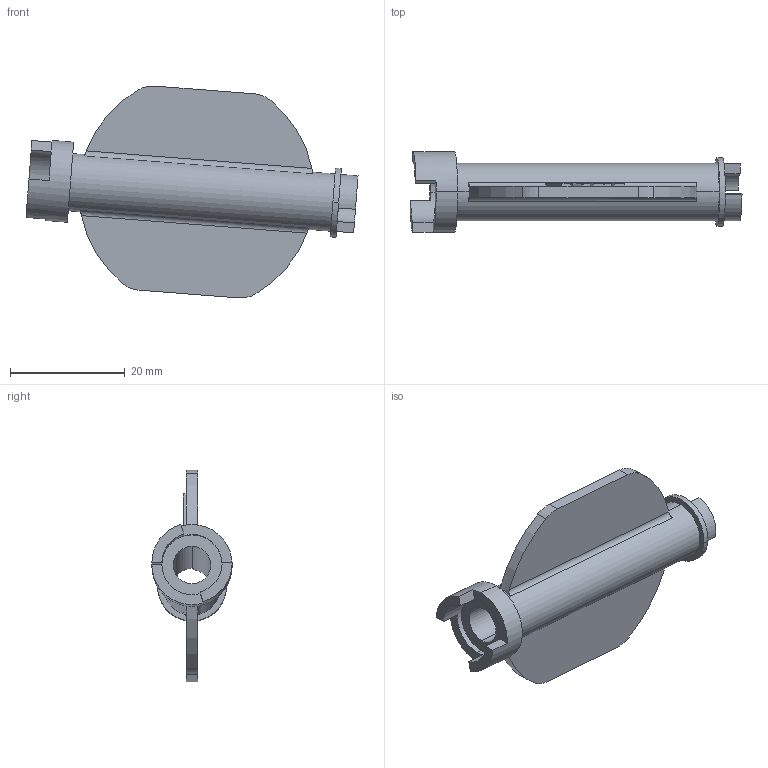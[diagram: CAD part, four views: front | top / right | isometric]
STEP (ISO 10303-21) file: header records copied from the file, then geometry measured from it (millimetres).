
FILE_DESCRIPTION((''),'2;1');
FILE_NAME('0000237124_PRT','2025-11-12T18:36:14',('Wyndorps'),(''),'CREO PARAMETRIC BY PTC INC, 2025010','CREO PARAMETRIC BY PTC INC, 2025010','');
FILE_SCHEMA(('CONFIG_CONTROL_DESIGN'));
Length unit declared in the file: millimetre
Products named in the file (1): 0000237124_PRT
Bounding box: 57.85 x 14 x 36.91 mm (x, y, z)
Volume: 4459.3 mm3; surface area: 4995.8 mm2
Topology: 1 solids, 1 shells, 76 faces, 204 edges, 136 vertices
Faces by surface type: plane 48, cylinder 24, extrusion 4
Entity records: 2541 total; most frequent: CARTESIAN_POINT 583, ORIENTED_EDGE 408, DIRECTION 380, EDGE_CURVE 204, VERTEX_POINT 136, VECTOR 132, LINE 128, AXIS2_PLACEMENT_3D 124
